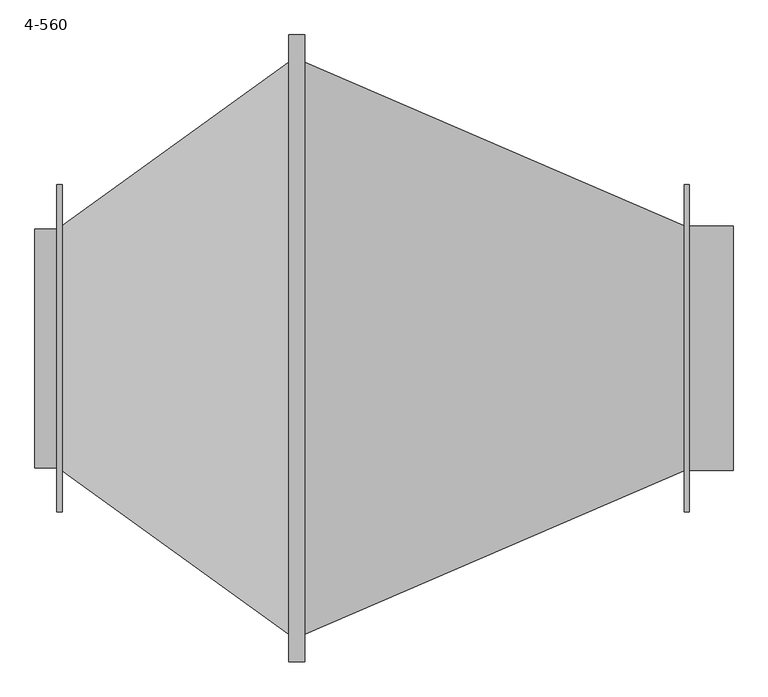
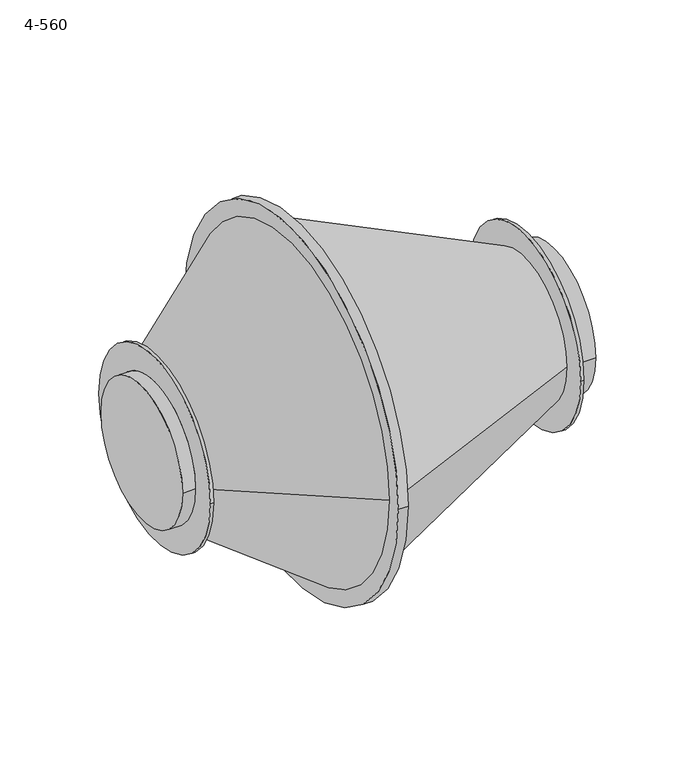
"""IFC4 building model written with IfcOpenShell, lengths in millimetres: unitary equipment geometry, VE-Wentylator-ParaForma-Harmann-VITT_L-Wywiewny : 4-560."""

from ifc_helpers import new_model, si_unit, point, frame, origin, origin_2d, place, context, project, spatial, polyline, circle_curve, trimmed, segment, composite_curve, outline, extrude, source, transform, mapped, element, save
from ifc_brep_helpers import plane_surface, cylinder_surface, revolved_surface, advanced_brep


def unitary_equipment_4_560_77a61e54(model_context):
    return source(origin(), model_context, "Body", "SolidModel", [
        advanced_brep(
        [(-30.0, -525.0, 0.0), (-30.0, 525.0, 0.0), (-495.0, -219.0, 0.0), (-495.0, 219.0, 0.0), (-455.0, -219.0, 0.0), (-455.0, 219.0, 0.0), (-445.0, -225.0, 0.0), (-445.0, 225.0, 0.0), (-455.0, -300.0, 0.0), (-455.0, 300.0, 0.0), (-445.0, -300.0, 0.0), (-445.0, 300.0, 0.0)],
        [
            (0, 1, circle_curve(frame((-30.0, 0.0, 0.0), z_axis=(1.0, 0.0, 0.0), x_axis=(0.0, -0.9999999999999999, 0.0)), 525.0)),
            (1, 0, circle_curve(frame((-30.0, 0.0, 0.0), z_axis=(1.0, 0.0, 0.0), x_axis=(0.0, 0.9999999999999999, 0.0)), 525.0)),
            (2, 3, circle_curve(frame((-495.0, 0.0, 0.0), z_axis=(-1.0, 0.0, 0.0), x_axis=(0.0, 0.9999999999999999, 0.0)), 219.0)),
            (3, 2, circle_curve(frame((-495.0, 0.0, 0.0), z_axis=(-1.0, 0.0, 0.0), x_axis=(0.0, 0.9999999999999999, 0.0)), 219.0)),
            (2, 4),
            (4, 5, circle_curve(frame((-455.0, 0.0, 0.0), z_axis=(-1.0, 0.0, 0.0), x_axis=(0.0, 0.9999999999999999, 0.0)), 219.0)),
            (5, 3),
            (5, 4, circle_curve(frame((-455.0, 0.0, 0.0), z_axis=(-1.0, 0.0, 0.0), x_axis=(0.0, 0.9999999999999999, 0.0)), 219.0)),
            (0, 6),
            (6, 7, circle_curve(frame((-445.0, 0.0, 0.0), z_axis=(1.0, 0.0, 0.0), x_axis=(0.0, -0.9999999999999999, 0.0)), 225.0)),
            (7, 1),
            (7, 6, circle_curve(frame((-445.0, 0.0, 0.0), z_axis=(1.0, 0.0, 0.0), x_axis=(0.0, 0.9999999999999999, 0.0)), 225.0)),
            (8, 9, circle_curve(frame((-455.0, 0.0, 0.0), z_axis=(-1.0, 0.0, 0.0), x_axis=(0.0, 0.9999999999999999, 0.0)), 300.0)),
            (9, 8, circle_curve(frame((-455.0, 0.0, 0.0), z_axis=(-1.0, 0.0, 0.0), x_axis=(0.0, 0.9999999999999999, 0.0)), 300.0)),
            (10, 11, circle_curve(frame((-445.0, 0.0, 0.0), z_axis=(1.0, 0.0, 0.0), x_axis=(0.0, 0.9999999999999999, 0.0)), 300.0)),
            (11, 10, circle_curve(frame((-445.0, 0.0, 0.0), z_axis=(1.0, 0.0, 0.0), x_axis=(0.0, 0.9999999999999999, 0.0)), 300.0)),
            (8, 10),
            (11, 9),
        ],
        [
            plane_surface(frame((-30.0, 0.0, 0.0), z_axis=(1.0, 0.0, 0.0), x_axis=(0.0, 0.0, -1.0))),
            plane_surface(frame((-495.0, 0.0, 0.0), z_axis=(-1.0, 0.0, 0.0), x_axis=(0.0, 0.0, 1.0))),
            cylinder_surface(frame((-495.0, 0.0, 0.0), z_axis=(-0.9999999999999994, 0.0, 0.0), x_axis=(0.0, 0.9999999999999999, 0.0)), 219.0),
            revolved_surface(polyline([(-445.0, 225.00000000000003, 0.0), (-30.0, 525.0, 0.0)]), (-756.25, 0.0, 0.0), (0.9999999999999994, 0.0, 0.0)),
            revolved_surface(polyline([(-445.0, -225.00000000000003, 0.0), (-30.0, -525.0, 0.0)]), (-756.25, 0.0, 0.0), (0.9999999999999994, 0.0, 0.0)),
            plane_surface(frame((-455.0, 0.0, 0.0), z_axis=(-1.0, 0.0, 0.0), x_axis=(0.0, 0.0, 1.0))),
            plane_surface(frame((-445.0, 0.0, 0.0), z_axis=(1.0, 0.0, 0.0), x_axis=(0.0, 0.0, 1.0))),
            cylinder_surface(frame((-455.0, 0.0, 0.0), z_axis=(-0.9999999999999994, 0.0, 0.0), x_axis=(0.0, 0.9999999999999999, 0.0)), 300.0),
        ],
        [
            (0, [[1, 2]]),
            (1, [[3, 4]]),
            (2, [[-3, 5, 6, 7]]),
            (2, [[-4, -7, 8, -5]]),
            (3, [[-1, 9, 10, 11]]),
            (4, [[-2, -11, 12, -9]]),
            (5, [[13, 14], [-6, -8]]),
            (6, [[15, 16], [-10, -12]]),
            (7, [[-13, 17, -16, 18]]),
            (7, [[-14, -18, -15, -17]]),
        ],
    ),
        advanced_brep(
        [(0.0, -525.0, 0.0), (0.0, 525.0, 0.0), (695.0, 225.0, 0.0), (695.0, -225.0, 0.0), (705.0, -300.0, 0.0), (705.0, 300.0, 0.0), (705.0, -224.0, 0.0), (705.0, 224.0, 0.0), (695.0, 300.0, 0.0), (695.0, -300.0, 0.0), (785.0, -224.0, 0.0), (785.0, 224.0, 0.0)],
        [
            (0, 1, circle_curve(frame((0.0, 0.0, 0.0), z_axis=(-1.0, 0.0, 0.0), x_axis=(0.0, 0.9999999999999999, 0.0)), 525.0)),
            (1, 0, circle_curve(frame((0.0, 0.0, 0.0), z_axis=(-1.0, 0.0, 0.0), x_axis=(0.0, -0.9999999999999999, 0.0)), 525.0)),
            (1, 2),
            (2, 3, circle_curve(frame((695.0, 0.0, 0.0), z_axis=(-1.0, 0.0, 0.0), x_axis=(0.0, -0.9999999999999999, 0.0)), 225.0)),
            (3, 0),
            (3, 2, circle_curve(frame((695.0, 0.0, 0.0), z_axis=(-1.0, 0.0, 0.0), x_axis=(0.0, 0.9999999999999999, 0.0)), 225.0)),
            (4, 5, circle_curve(frame((705.0, 0.0, 0.0), z_axis=(1.0, 0.0, 0.0), x_axis=(0.0, 0.9999999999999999, 0.0)), 300.0)),
            (5, 4, circle_curve(frame((705.0, 0.0, 0.0), z_axis=(1.0, 0.0, 0.0), x_axis=(0.0, 0.9999999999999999, 0.0)), 300.0)),
            (6, 7, circle_curve(frame((705.0, 0.0, 0.0), z_axis=(-1.0, 0.0, 0.0), x_axis=(0.0, 0.9999999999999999, 0.0)), 224.0)),
            (7, 6, circle_curve(frame((705.0, 0.0, 0.0), z_axis=(-1.0, 0.0, 0.0), x_axis=(0.0, 0.9999999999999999, 0.0)), 224.0)),
            (8, 9, circle_curve(frame((695.0, 0.0, 0.0), z_axis=(1.0, 0.0, 0.0), x_axis=(0.0, 0.9999999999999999, 0.0)), 300.0)),
            (9, 4),
            (5, 8),
            (9, 8, circle_curve(frame((695.0, 0.0, 0.0), z_axis=(1.0, 0.0, 0.0), x_axis=(0.0, 0.9999999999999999, 0.0)), 300.0)),
            (10, 11, circle_curve(frame((785.0, 0.0, 0.0), z_axis=(1.0, 0.0, 0.0), x_axis=(0.0, 0.9999999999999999, 0.0)), 224.0)),
            (11, 10, circle_curve(frame((785.0, 0.0, 0.0), z_axis=(1.0, 0.0, 0.0), x_axis=(0.0, 0.9999999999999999, 0.0)), 224.0)),
            (11, 7),
            (6, 10),
        ],
        [
            plane_surface(frame((0.0, 0.0, 0.0), z_axis=(-1.0, 0.0, 0.0), x_axis=(0.0, 0.0, -1.0))),
            revolved_surface(polyline([(695.0, -225.0, 0.0), (0.0, -525.0, 0.0)]), (1216.25, 0.0, 0.0), (-0.9999999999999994, 0.0, 0.0)),
            revolved_surface(polyline([(695.0, 225.0, 0.0), (0.0, 525.0, 0.0)]), (1216.25, 0.0, 0.0), (-0.9999999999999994, 0.0, 0.0)),
            plane_surface(frame((705.0, 0.0, 0.0), z_axis=(1.0, 0.0, 0.0), x_axis=(0.0, 0.0, 1.0))),
            cylinder_surface(frame((695.0, 0.0, 0.0), z_axis=(-0.9999999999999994, 0.0, 0.0), x_axis=(0.0, 0.9999999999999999, 0.0)), 300.0),
            plane_surface(frame((785.0, 0.0, 0.0), z_axis=(1.0, 0.0, 0.0), x_axis=(0.0, 0.0, 1.0))),
            cylinder_surface(frame((705.0, 0.0, 0.0), z_axis=(-0.9999999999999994, 0.0, 0.0), x_axis=(0.0, 0.9999999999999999, 0.0)), 224.0),
            plane_surface(frame((695.0, 0.0, 0.0), z_axis=(-1.0, 0.0, 0.0), x_axis=(0.0, 0.0, 1.0))),
        ],
        [
            (0, [[1, 2]]),
            (1, [[-2, 3, 4, 5]]),
            (2, [[-1, -5, 6, -3]]),
            (3, [[7, 8], [9, 10]]),
            (4, [[11, 12, -8, 13]]),
            (4, [[14, -13, -7, -12]]),
            (5, [[15, 16]]),
            (6, [[-16, 17, -9, 18]]),
            (6, [[-15, -18, -10, -17]]),
            (7, [[-11, -14], [-4, -6]]),
        ],
    ),
        extrude(outline(composite_curve([segment(trimmed(circle_curve(origin_2d(), 575.0), [point((-575.0, 0.0))], [point((575.0, 0.0))], False, "CARTESIAN"), True, "CONTINUOUS"), segment(trimmed(circle_curve(origin_2d(), 575.0), [point((575.0, 0.0))], [point((-575.0, 0.0))], False, "CARTESIAN"), True, "CONTINUOUS")], self_intersect=False)), frame((-30.0, 0.0, 0.0), z_axis=(1.0, 0.0, 0.0), x_axis=(0.0, 1.0, 0.0)), (0.0, 0.0, 1.0), 30.0),
    ])


if __name__ == "__main__":
    model = new_model("IFC4")
    model_context = context("Model", 3, world=origin())
    ifc_project = project(units=[si_unit("LENGTHUNIT", "METRE", prefix="MILLI")], contexts=[model_context])
    site = spatial("IfcSite", under=ifc_project)
    building = spatial("IfcBuilding", under=site)
    placement = place(None, origin())
    unitary_equipment_4_560_shape = unitary_equipment_4_560_77a61e54(model_context)
    element("IfcUnitaryEquipment", 1, ObjectType="VE-Wentylator-ParaForma-Harmann-VITT_L-Wywiewny : 4-560", at=placement, inside=building, context=model_context, shape_type="MappedRepresentation", body=[
        mapped(unitary_equipment_4_560_shape, transform((0.0, 0.0, 0.0), x_axis=(1.0, 0.0, 0.0), y_axis=(0.0, 1.0, 0.0), z_axis=(0.0, 0.0, 1.0))),
    ])
    save(model, "model.ifc")
